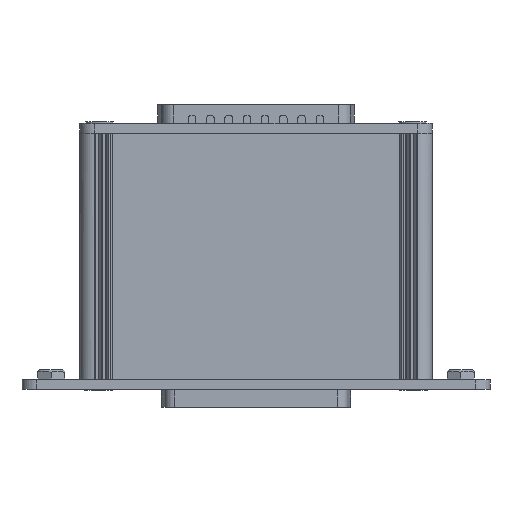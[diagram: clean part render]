
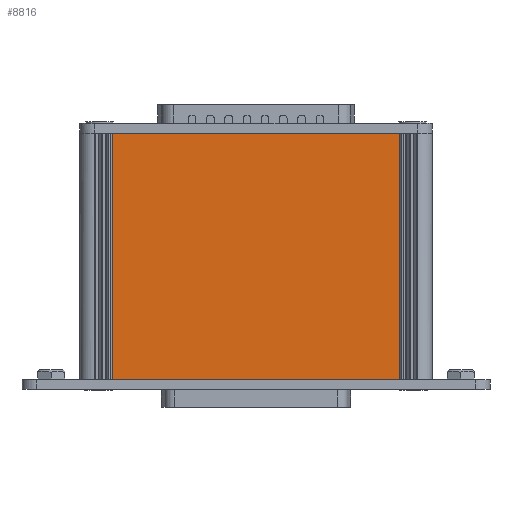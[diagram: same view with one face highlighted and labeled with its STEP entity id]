
A CAD part, front view. The second image highlights one B-rep face of the part: STEP entity #8816.
In plain terms, the highlighted planar face has unit normal (0, -1, 0).
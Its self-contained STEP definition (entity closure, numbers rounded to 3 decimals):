
#8758=CARTESIAN_POINT('',(64.8,-14.28,50.0));
#8759=VERTEX_POINT('',#8758);
#8768=CARTESIAN_POINT('',(64.8,-14.28,100.0));
#8769=VERTEX_POINT('',#8768);
#8777=CARTESIAN_POINT('',(64.8,-14.28,50.0));
#8778=DIRECTION('',(0.0,0.0,1.0));
#8779=VECTOR('',#8778,50.0);
#8780=LINE('',#8777,#8779);
#8781=EDGE_CURVE('',#8759,#8769,#8780,.T.);
#8786=CARTESIAN_POINT('',(64.8,-14.28,0.0));
#8787=DIRECTION('',(0.0,-1.0,0.0));
#8788=DIRECTION('',(0.0,0.0,-1.0));
#8789=AXIS2_PLACEMENT_3D('',#8786,#8787,#8788);
#8790=PLANE('',#8789);
#8791=CARTESIAN_POINT('',(6.7,-14.28,50.0));
#8792=VERTEX_POINT('',#8791);
#8793=CARTESIAN_POINT('',(6.7,-14.28,50.0));
#8794=DIRECTION('',(1.0,0.0,0.0));
#8795=VECTOR('',#8794,58.1);
#8796=LINE('',#8793,#8795);
#8797=EDGE_CURVE('',#8792,#8759,#8796,.T.);
#8798=ORIENTED_EDGE('',*,*,#8797,.T.);
#8799=ORIENTED_EDGE('',*,*,#8781,.T.);
#8800=CARTESIAN_POINT('',(6.7,-14.28,100.0));
#8801=VERTEX_POINT('',#8800);
#8802=CARTESIAN_POINT('',(64.8,-14.28,100.0));
#8803=DIRECTION('',(-1.0,0.0,0.0));
#8804=VECTOR('',#8803,58.1);
#8805=LINE('',#8802,#8804);
#8806=EDGE_CURVE('',#8769,#8801,#8805,.T.);
#8807=ORIENTED_EDGE('',*,*,#8806,.T.);
#8808=CARTESIAN_POINT('',(6.7,-14.28,50.0));
#8809=DIRECTION('',(0.0,0.0,1.0));
#8810=VECTOR('',#8809,50.0);
#8811=LINE('',#8808,#8810);
#8812=EDGE_CURVE('',#8792,#8801,#8811,.T.);
#8813=ORIENTED_EDGE('',*,*,#8812,.F.);
#8814=EDGE_LOOP('',(#8798,#8799,#8807,#8813));
#8815=FACE_OUTER_BOUND('',#8814,.T.);
#8816=ADVANCED_FACE('',(#8815),#8790,.T.);
